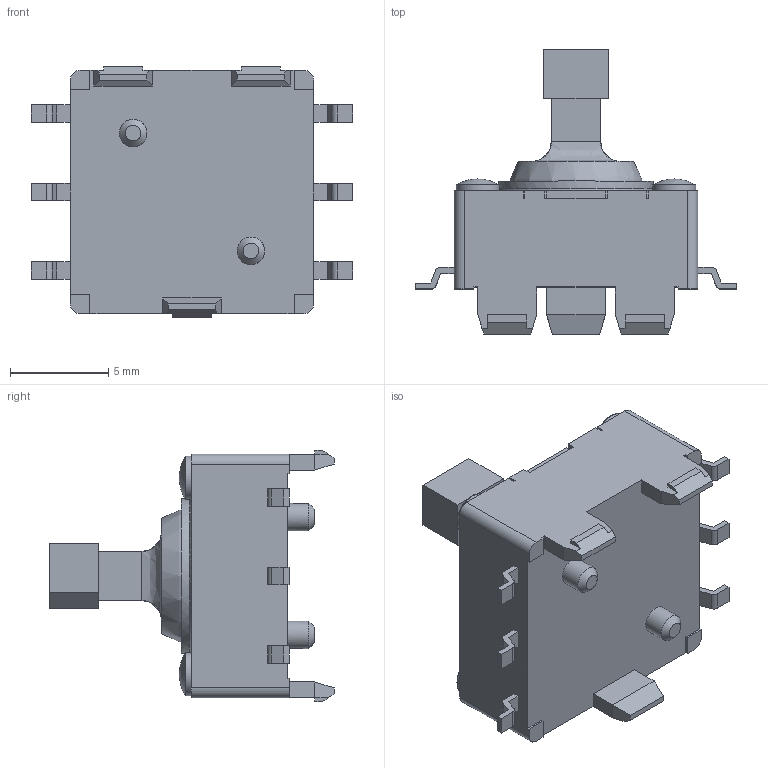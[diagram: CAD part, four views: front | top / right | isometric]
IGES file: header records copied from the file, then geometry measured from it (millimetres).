
Global section: file name: 7HNo Iges File Name specified; native system: Autodesk Inventor 2013; preprocessor: AutoDesk Inventor Iges Exporter R2013; author: sksa; date: 20120921.180300; units: millimetre
Bounding box: 16.4 x 14.5 x 12.8 mm (x, y, z)
Volume: 884.9 mm3; surface area: 802.2 mm2
Topology: 1 solids, 1 shells, 188 faces, 496 edges, 322 vertices
Faces by surface type: bspline 188
